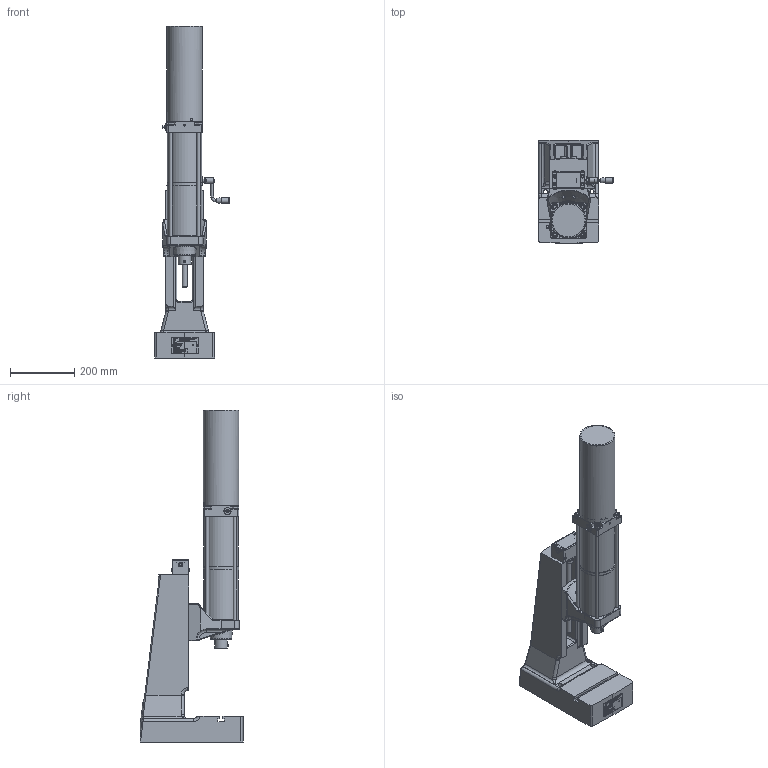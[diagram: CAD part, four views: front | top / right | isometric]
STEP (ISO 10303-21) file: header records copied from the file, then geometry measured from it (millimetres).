
FILE_DESCRIPTION(/* description */ ('Bausatz Ständer T460 N HV-OST'),/* implementation_level */ '2;1');
FILE_NAME(/* name */ 'B:\02_CAD_oeffentlich\CAD_3D_oeffentlich_step\Druckluftpresse\DRP_0850_120_100.stp',/* time_stamp */ '2017-08-03T11:47:16+02:00',/* author */ ('Finsterle'),/* organization */ (''),/* preprocessor_version */ 'ST-DEVELOPER v16.1',/* originating_system */ 'Autodesk Inventor 2016',/* authorisation */ '');
FILE_SCHEMA (('AUTOMOTIVE_DESIGN { 1 0 10303 214 3 1 1 }'));
Products named in the file (5): ENG-000341-1_V; ENG-001000-1_V; HBF-000760; ENG-000755; HBF-001034_V
Assembly tree (5 placements, depth 2):
  HBF-001034_V
    ENG-000341-1_V
    ENG-001000-1_V
    HBF-000760
    ENG-000755  x2
Bounding box: 231.79 x 321.2 x 1033.27 mm (x, y, z)
Volume: 9736778.6 mm3; surface area: 1403675.1 mm2
Topology: 6 solids, 29 shells, 7734 faces, 20902 edges, 13642 vertices
Faces by surface type: plane 4622, bspline 2170, cylinder 516, cone 248, torus 102, sphere 76
Full cylindrical faces by diameter (mm): 1 x1, 2 x1, 2.459 x2, 3 x9, 3.242 x7, 3.5 x2, 3.65 x4, 4 x10, 4.134 x1, 4.5 x4, 4.917 x6, 5 x3, 6 x4, 6.2 x4, 6.5 x2, 6.647 x1, 8 x7, 8.4 x1, 8.5 x1, 10 x12, 10.02 x1, 10.106 x2, 10.5 x12, 11.8 x2, 12 x7, 13 x8, 13.5 x4, 14 x3, 14.376 x2, 14.95 x3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
Entity records: 264275 total; most frequent: CARTESIAN_POINT 79495, ORIENTED_EDGE 40472, DIRECTION 28392, EDGE_CURVE 20224, LINE 14012, VECTOR 14012, VERTEX_POINT 13483, EDGE_LOOP 8744
